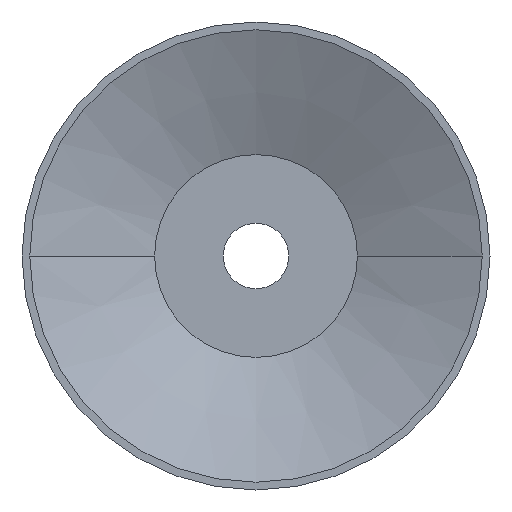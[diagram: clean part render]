
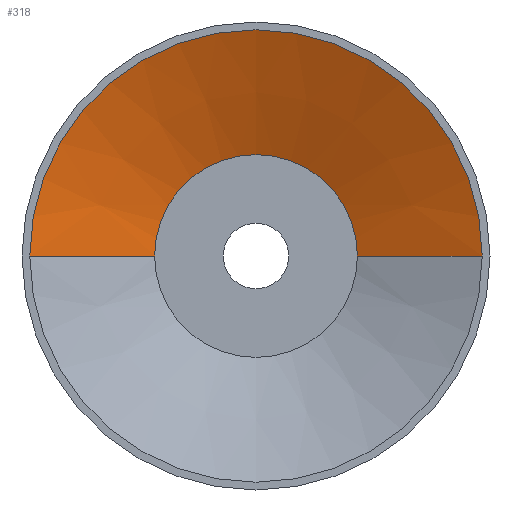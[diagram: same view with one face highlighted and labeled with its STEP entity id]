
A CAD part, front view. The second image highlights one B-rep face of the part: STEP entity #318.
In plain terms, the highlighted conical face has half-angle 66.371 degrees and reference radius 10.5 mm.
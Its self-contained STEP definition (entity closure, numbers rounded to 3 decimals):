
#51=DIRECTION('',(-0.916,-0.401,0.));
#52=VECTOR('',#51,8.732);
#53=CARTESIAN_POINT('',(-6.5,3.5,0.));
#54=LINE('196',#53,#52);
#55=DIRECTION('',(0.916,-0.401,0.));
#56=VECTOR('',#55,8.732);
#57=CARTESIAN_POINT('',(6.5,3.5,0.));
#58=LINE('197',#57,#56);
#59=CARTESIAN_POINT('',(0.,3.5,0.));
#60=DIRECTION('',(0.,1.,0.));
#61=DIRECTION('',(-1.,0.,0.));
#62=AXIS2_PLACEMENT_3D('',#59,#60,#61);
#84=CARTESIAN_POINT('',(0.,0.,0.));
#85=DIRECTION('',(0.,-1.,0.));
#86=DIRECTION('',(1.,0.,0.));
#87=AXIS2_PLACEMENT_3D('',#84,#85,#86);
#174=CARTESIAN_POINT('',(-6.5,3.5,0.));
#175=CARTESIAN_POINT('',(6.5,3.5,0.));
#176=VERTEX_POINT('',#174);
#177=VERTEX_POINT('',#175);
#178=CARTESIAN_POINT('',(-14.5,0.,0.));
#179=VERTEX_POINT('',#178);
#180=CARTESIAN_POINT('',(14.5,0.,0.));
#181=VERTEX_POINT('',#180);
#304=CARTESIAN_POINT('',(0.,1.75,0.));
#305=DIRECTION('',(0.,-1.,0.));
#306=DIRECTION('',(-1.,0.,0.));
#307=AXIS2_PLACEMENT_3D('',#304,#305,#306);
#308=CONICAL_SURFACE('188',#307,10.5,66.371);
#310=ORIENTED_EDGE('196',*,*,#309,.T.);
#312=ORIENTED_EDGE('515',*,*,#311,.F.);
#314=ORIENTED_EDGE('197',*,*,#313,.F.);
#315=ORIENTED_EDGE('189',*,*,#292,.F.);
#316=EDGE_LOOP('188',(#310,#312,#314,#315));
#317=FACE_OUTER_BOUND('188',#316,.F.);
#318=ADVANCED_FACE('188',(#317),#308,.F.);
#63=CIRCLE('189',#62,6.5);
#88=CIRCLE('515',#87,14.5);
#292=EDGE_CURVE('189',#176,#177,#63,.T.);
#309=EDGE_CURVE('196',#176,#179,#54,.T.);
#311=EDGE_CURVE('515',#181,#179,#88,.T.);
#313=EDGE_CURVE('197',#177,#181,#58,.T.);
